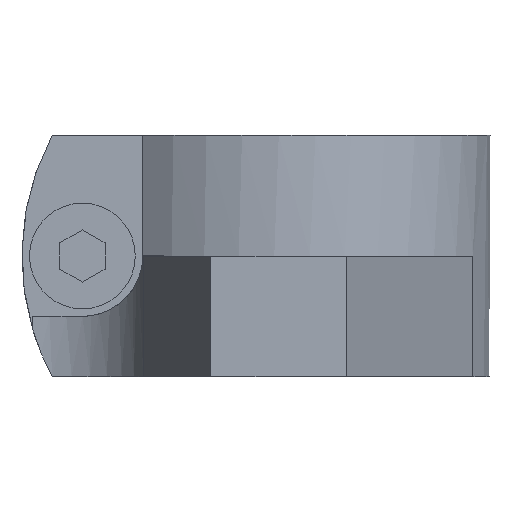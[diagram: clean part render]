
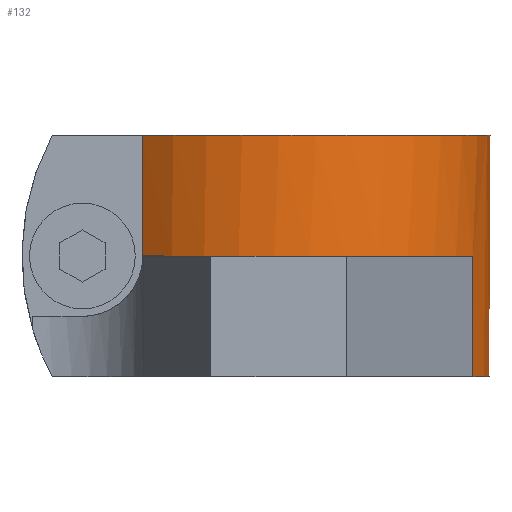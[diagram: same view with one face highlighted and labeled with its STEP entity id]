
A CAD part, left-side view. The second image highlights one B-rep face of the part: STEP entity #132.
In plain terms, the highlighted cylindrical face has radius 14 mm (diameter 28 mm), a partial arc.
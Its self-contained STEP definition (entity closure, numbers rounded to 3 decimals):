
#132=ADVANCED_FACE('',(#188),#189,.T.);
#188=FACE_OUTER_BOUND('',#291,.T.);
#189=CYLINDRICAL_SURFACE('',#292,14.0);
#291=EDGE_LOOP('',(#444,#445,#446,#447,#448,#449,#450,#451));
#292=AXIS2_PLACEMENT_3D('',#452,#453,#454);
#444=ORIENTED_EDGE('',*,*,#741,.T.);
#445=ORIENTED_EDGE('',*,*,#742,.T.);
#446=ORIENTED_EDGE('',*,*,#743,.F.);
#447=ORIENTED_EDGE('',*,*,#744,.F.);
#448=ORIENTED_EDGE('',*,*,#745,.T.);
#449=ORIENTED_EDGE('',*,*,#739,.T.);
#450=ORIENTED_EDGE('',*,*,#746,.F.);
#451=ORIENTED_EDGE('',*,*,#747,.F.);
#452=CARTESIAN_POINT('',(0.,0.,8.0));
#453=DIRECTION('',(-0.0,-0.0,1.0));
#454=DIRECTION('',(0.764,0.645,0.0));
#739=EDGE_CURVE('',#868,#809,#869,.T.);
#741=EDGE_CURVE('',#871,#872,#873,.T.);
#742=EDGE_CURVE('',#872,#874,#875,.T.);
#743=EDGE_CURVE('',#876,#874,#877,.T.);
#744=EDGE_CURVE('',#878,#876,#879,.T.);
#745=EDGE_CURVE('',#878,#868,#880,.T.);
#746=EDGE_CURVE('',#881,#809,#882,.T.);
#747=EDGE_CURVE('',#871,#881,#883,.T.);
#809=VERTEX_POINT('',#983);
#868=VERTEX_POINT('',#1083);
#869=LINE('',#1084,#1085);
#871=VERTEX_POINT('',#1088);
#872=VERTEX_POINT('',#1089);
#873=CIRCLE('',#1090,14.0);
#874=VERTEX_POINT('',#1091);
#875=LINE('',#1092,#1093);
#876=VERTEX_POINT('',#1094);
#877=CIRCLE('',#1095,14.0);
#878=VERTEX_POINT('',#1096);
#879=LINE('',#1097,#1098);
#880=CIRCLE('',#1099,14.0);
#881=VERTEX_POINT('',#1100);
#882=CIRCLE('',#1101,14.0);
#883=LINE('',#1102,#1103);
#983=CARTESIAN_POINT('',(-10.724,9.0,0.));
#1083=CARTESIAN_POINT('',(-10.724,9.0,8.0));
#1084=CARTESIAN_POINT('',(-10.724,9.0,8.0));
#1085=VECTOR('',#1361,1.0);
#1088=CARTESIAN_POINT('',(-5.524,-12.864,-8.0));
#1089=CARTESIAN_POINT('',(5.524,-12.864,-8.0));
#1090=AXIS2_PLACEMENT_3D('',#1363,#1364,#1365);
#1091=CARTESIAN_POINT('',(5.524,-12.864,0.0));
#1092=CARTESIAN_POINT('',(5.524,-12.864,-8.0));
#1093=VECTOR('',#1366,1.0);
#1094=CARTESIAN_POINT('',(10.694,9.035,0.0));
#1095=AXIS2_PLACEMENT_3D('',#1367,#1368,#1369);
#1096=CARTESIAN_POINT('',(10.694,9.035,8.0));
#1097=CARTESIAN_POINT('',(10.694,9.035,8.0));
#1098=VECTOR('',#1370,1.0);
#1099=AXIS2_PLACEMENT_3D('',#1371,#1372,#1373);
#1100=CARTESIAN_POINT('',(-5.524,-12.864,0.0));
#1101=AXIS2_PLACEMENT_3D('',#1374,#1375,#1376);
#1102=CARTESIAN_POINT('',(-5.524,-12.864,-8.0));
#1103=VECTOR('',#1377,1.0);
#1361=DIRECTION('',(0.0,0.0,-1.0));
#1363=CARTESIAN_POINT('',(0.,0.0,-8.0));
#1364=DIRECTION('',(0.0,0.0,1.0));
#1365=DIRECTION('',(1.0,0.0,0.0));
#1366=DIRECTION('',(0.0,0.0,1.0));
#1367=CARTESIAN_POINT('',(0.,0.,0.0));
#1368=DIRECTION('',(0.0,0.0,-1.0));
#1369=DIRECTION('',(1.0,0.0,0.0));
#1370=DIRECTION('',(0.0,0.0,-1.0));
#1371=CARTESIAN_POINT('',(0.,0.,8.0));
#1372=DIRECTION('',(0.0,0.0,-1.0));
#1373=DIRECTION('',(1.0,0.0,0.0));
#1374=CARTESIAN_POINT('',(0.,0.,0.0));
#1375=DIRECTION('',(0.0,0.0,-1.0));
#1376=DIRECTION('',(1.0,0.0,0.0));
#1377=DIRECTION('',(0.0,0.0,1.0));
